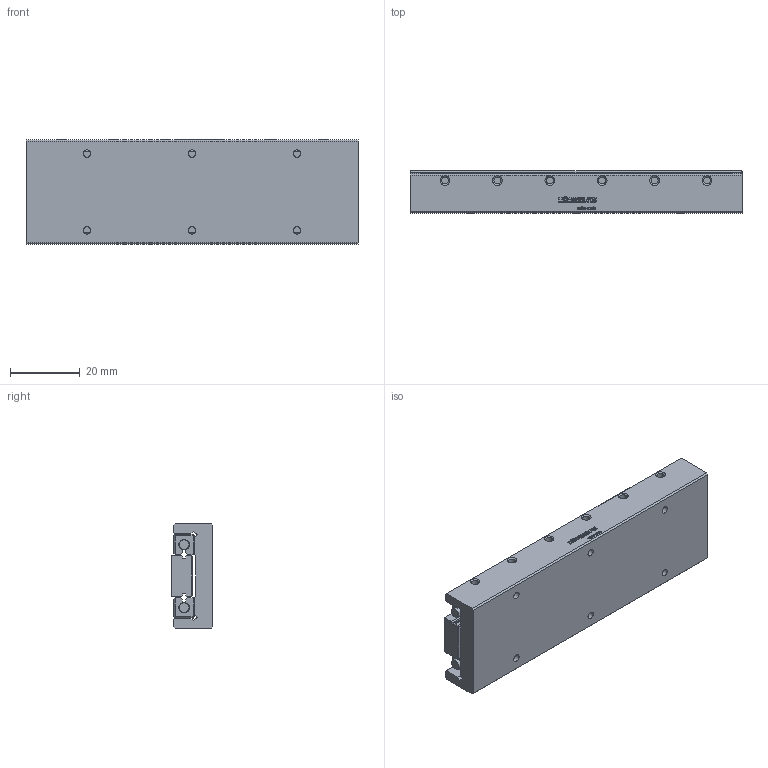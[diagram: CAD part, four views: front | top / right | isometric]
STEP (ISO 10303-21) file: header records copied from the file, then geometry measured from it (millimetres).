
FILE_DESCRIPTION(/* description */ ('STEP AP214'),/* implementation_level */ '2;1');
FILE_NAME(/* name */ 'ND 2-95.60(0)',/* time_stamp */ '2025-04-22T17:44:12+02:00',/* author */ ('License CC BY-ND 4.0'),/* organization */ ('CADENAS'),/* preprocessor_version */ 'ST-DEVELOPER v19.3',/* originating_system */ 'PARTsolutions',/* authorisation */ ' ');
FILE_SCHEMA (('AUTOMOTIVE_DESIGN {1 0 10303 214 3 1 1}'));
Length unit declared in the file: millimetre
Products named in the file (4): ND 2-95.60(0); ND 2-95.60+SQ+OF_(0)_1; ND 2-95.60+SQ+OF_(0)_2; ND 2-95.60+SQ+OF_(0)_3
Assembly tree (4 placements, depth 2):
  ND 2-95.60(0)
    ND 2-95.60+SQ+OF_(0)_1
    ND 2-95.60+SQ+OF_(0)_2
    ND 2-95.60+SQ+OF_(0)_3  x2
Bounding box: 95 x 12 x 30 mm (x, y, z)
Volume: 29007.7 mm3; surface area: 18874.1 mm2
Topology: 4 solids, 4 shells, 679 faces, 1854 edges, 1224 vertices
Faces by surface type: cylinder 340, plane 301, cone 34, torus 4
Full cylindrical faces by diameter (mm): 1.49 x4, 1.977 x6, 2 x12, 2.113 x6, 4.5 x12, 4.917 x6
Entity records: 19991 total; most frequent: DIRECTION 3616, CARTESIAN_POINT 3426, ORIENTED_EDGE 3324, EDGE_CURVE 1662, AXIS2_PLACEMENT_3D 1326, VERTEX_POINT 1136, LINE 964, VECTOR 964
